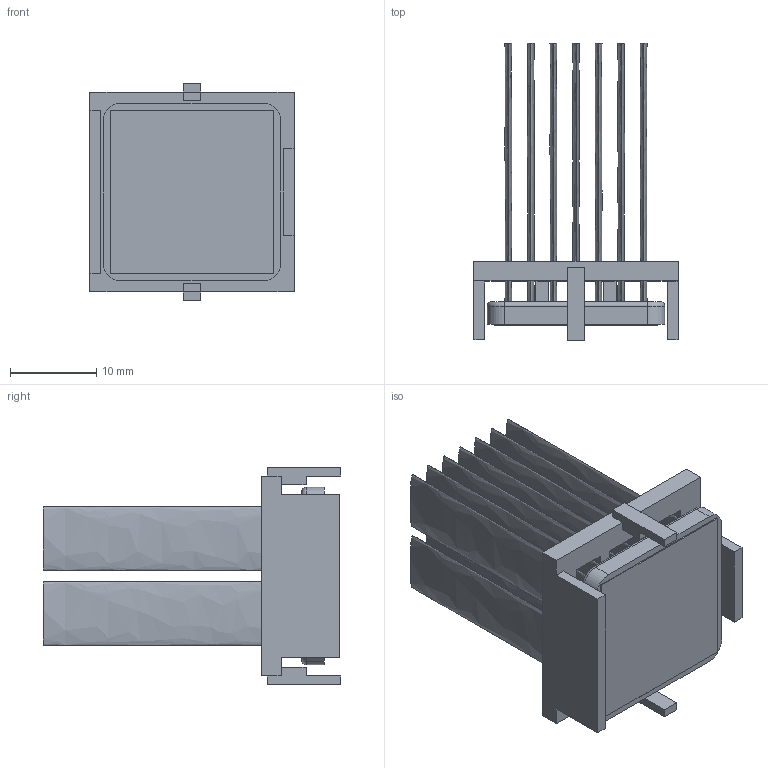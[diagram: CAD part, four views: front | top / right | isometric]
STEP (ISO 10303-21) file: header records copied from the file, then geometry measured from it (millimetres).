
FILE_DESCRIPTION (( 'STEP AP214' ), '1' );
FILE_NAME ('INM21001-33W-2.6BU.STEP', '2023-03-02T21:18:06', ( '' ), ( '' ), 'SwSTEP 2.0', 'SolidWorks 2020', '' );
FILE_SCHEMA (( 'AUTOMOTIVE_DESIGN' ));
Length unit declared in the file: millimetre
Products named in the file (1): INM21001-33W-2.6BU
Bounding box: 23.7 x 34.5 x 25.2 mm (x, y, z)
Volume: 4114.7 mm3; surface area: 9774.5 mm2
Topology: 3 solids, 3 shells, 124 faces, 304 edges, 200 vertices
Faces by surface type: plane 84, bspline 28, cylinder 8, torus 4
Entity records: 5088 total; most frequent: CARTESIAN_POINT 993, ORIENTED_EDGE 608, DIRECTION 462, EDGE_CURVE 304, LINE 228, VECTOR 228, VERTEX_POINT 200, EDGE_LOOP 140
